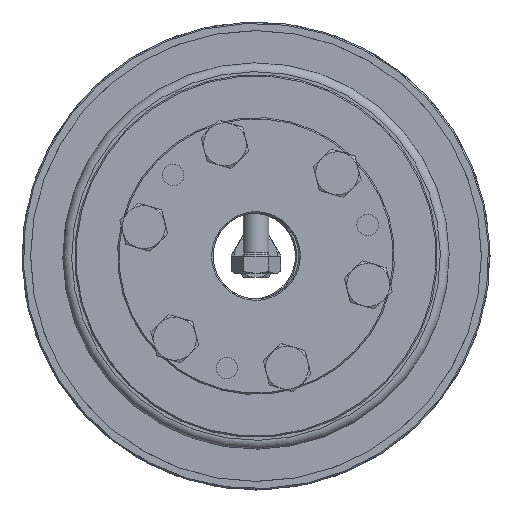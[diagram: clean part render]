
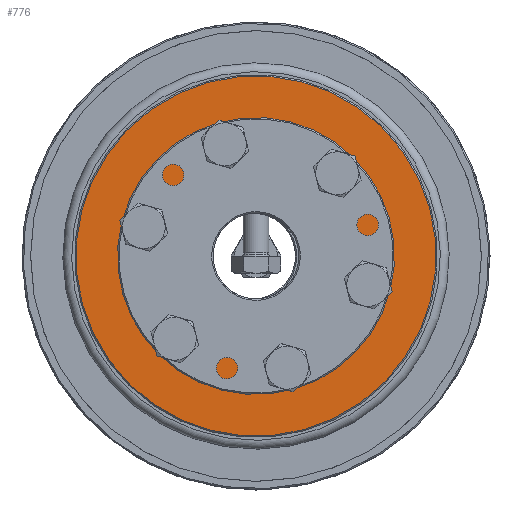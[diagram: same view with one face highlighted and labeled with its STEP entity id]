
A CAD part, left-side view. The second image highlights one B-rep face of the part: STEP entity #776.
In plain terms, the highlighted planar face has unit normal (-1, 0, 0) as drawn and (1, 0, 0) by its records, which use the part's own axes.
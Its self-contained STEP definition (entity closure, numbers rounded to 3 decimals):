
#776 = ADVANCED_FACE( 'NONE', ( #1321, #1322, #1323, #1324, #1325, #1326, #1327, #1328 ), #1329, .F. );
#1321 = FACE_OUTER_BOUND( '', #2047, .T. );
#1322 = FACE_BOUND( '', #2048, .T. );
#1323 = FACE_BOUND( '', #2049, .T. );
#1324 = FACE_BOUND( '', #2050, .T. );
#1325 = FACE_BOUND( '', #2051, .T. );
#1326 = FACE_BOUND( '', #2052, .T. );
#1327 = FACE_BOUND( '', #2053, .T. );
#1328 = FACE_BOUND( '', #2054, .T. );
#1329 = PLANE( '', #2055 );
#2047 = EDGE_LOOP( '', ( #2844 ) );
#2048 = EDGE_LOOP( '', ( #2845 ) );
#2049 = EDGE_LOOP( '', ( #2846 ) );
#2050 = EDGE_LOOP( '', ( #2847 ) );
#2051 = EDGE_LOOP( '', ( #2848 ) );
#2052 = EDGE_LOOP( '', ( #2849 ) );
#2053 = EDGE_LOOP( '', ( #2850 ) );
#2054 = EDGE_LOOP( '', ( #2851 ) );
#2055 = AXIS2_PLACEMENT_3D( '', #2852, #2853, #2854 );
#2844 = ORIENTED_EDGE( '', *, *, #4182, .T. );
#2845 = ORIENTED_EDGE( '', *, *, #4183, .T. );
#2846 = ORIENTED_EDGE( '', *, *, #4184, .F. );
#2847 = ORIENTED_EDGE( '', *, *, #4185, .F. );
#2848 = ORIENTED_EDGE( '', *, *, #4186, .F. );
#2849 = ORIENTED_EDGE( '', *, *, #4187, .F. );
#2850 = ORIENTED_EDGE( '', *, *, #4176, .F. );
#2851 = ORIENTED_EDGE( '', *, *, #4180, .F. );
#2852 = CARTESIAN_POINT( '', ( 20., 42.25, 0. ) );
#2853 = DIRECTION( '', ( -1., 0., 0. ) );
#2854 = DIRECTION( '', ( 0., 0., 1. ) );
#4176 = EDGE_CURVE( 'NONE', #4617, #4617, #4618, .T. );
#4180 = EDGE_CURVE( 'NONE', #4625, #4625, #4626, .T. );
#4182 = EDGE_CURVE( 'NONE', #4629, #4629, #4630, .T. );
#4183 = EDGE_CURVE( 'NONE', #4631, #4631, #4632, .T. );
#4184 = EDGE_CURVE( 'NONE', #4633, #4633, #4634, .T. );
#4185 = EDGE_CURVE( 'NONE', #4635, #4635, #4636, .T. );
#4186 = EDGE_CURVE( 'NONE', #4637, #4637, #4638, .T. );
#4187 = EDGE_CURVE( 'NONE', #4639, #4639, #4640, .T. );
#4617 = VERTEX_POINT( '', #5085 );
#4618 = CIRCLE( '', #5086, 3. );
#4625 = VERTEX_POINT( '', #5093 );
#4626 = CIRCLE( '', #5094, 3. );
#4629 = VERTEX_POINT( '', #5097 );
#4630 = CIRCLE( '', #5098, 41.95 );
#4631 = VERTEX_POINT( '', #5099 );
#4632 = CIRCLE( '', #5100, 23.558 );
#4633 = VERTEX_POINT( '', #5101 );
#4634 = CIRCLE( '', #5102, 3. );
#4635 = VERTEX_POINT( '', #5103 );
#4636 = CIRCLE( '', #5104, 3. );
#4637 = VERTEX_POINT( '', #5105 );
#4638 = CIRCLE( '', #5106, 3. );
#4639 = VERTEX_POINT( '', #5107 );
#4640 = CIRCLE( '', #5108, 3. );
#5085 = CARTESIAN_POINT( '', ( 20., -27., -3. ) );
#5086 = AXIS2_PLACEMENT_3D( '', #5985, #5986, #5987 );
#5093 = CARTESIAN_POINT( '', ( 20., 13.5, 20.383 ) );
#5094 = AXIS2_PLACEMENT_3D( '', #5997, #5998, #5999 );
#5097 = CARTESIAN_POINT( '', ( 20., 0., 41.95 ) );
#5098 = AXIS2_PLACEMENT_3D( '', #6003, #6004, #6005 );
#5099 = CARTESIAN_POINT( '', ( 20., 0., 23.558 ) );
#5100 = AXIS2_PLACEMENT_3D( '', #6006, #6007, #6008 );
#5101 = CARTESIAN_POINT( '', ( 20., -13.5, 20.383 ) );
#5102 = AXIS2_PLACEMENT_3D( '', #6009, #6010, #6011 );
#5103 = CARTESIAN_POINT( '', ( 20., 27., -3. ) );
#5104 = AXIS2_PLACEMENT_3D( '', #6012, #6013, #6014 );
#5105 = CARTESIAN_POINT( '', ( 20., 13.5, -26.383 ) );
#5106 = AXIS2_PLACEMENT_3D( '', #6015, #6016, #6017 );
#5107 = CARTESIAN_POINT( '', ( 20., -13.5, -26.383 ) );
#5108 = AXIS2_PLACEMENT_3D( '', #6018, #6019, #6020 );
#5985 = CARTESIAN_POINT( '', ( 20., -27., 0. ) );
#5986 = DIRECTION( '', ( 1., 0., 0. ) );
#5987 = DIRECTION( '', ( 0., 0., -1. ) );
#5997 = CARTESIAN_POINT( '', ( 20., 13.5, 23.383 ) );
#5998 = DIRECTION( '', ( 1., 0., 0. ) );
#5999 = DIRECTION( '', ( 0., 0., -1. ) );
#6003 = CARTESIAN_POINT( '', ( 20., 0., 0. ) );
#6004 = DIRECTION( '', ( 1., 0., 0. ) );
#6005 = DIRECTION( '', ( 0., 0., 1. ) );
#6006 = CARTESIAN_POINT( '', ( 20., 0., 0. ) );
#6007 = DIRECTION( '', ( -1., 0., 0. ) );
#6008 = DIRECTION( '', ( 0., 0., 1. ) );
#6009 = CARTESIAN_POINT( '', ( 20., -13.5, 23.383 ) );
#6010 = DIRECTION( '', ( 1., 0., 0. ) );
#6011 = DIRECTION( '', ( 0., 0., -1. ) );
#6012 = CARTESIAN_POINT( '', ( 20., 27., 0. ) );
#6013 = DIRECTION( '', ( 1., 0., 0. ) );
#6014 = DIRECTION( '', ( 0., 0., -1. ) );
#6015 = CARTESIAN_POINT( '', ( 20., 13.5, -23.383 ) );
#6016 = DIRECTION( '', ( 1., 0., 0. ) );
#6017 = DIRECTION( '', ( 0., 0., -1. ) );
#6018 = CARTESIAN_POINT( '', ( 20., -13.5, -23.383 ) );
#6019 = DIRECTION( '', ( 1., 0., 0. ) );
#6020 = DIRECTION( '', ( 0., 0., -1. ) );
